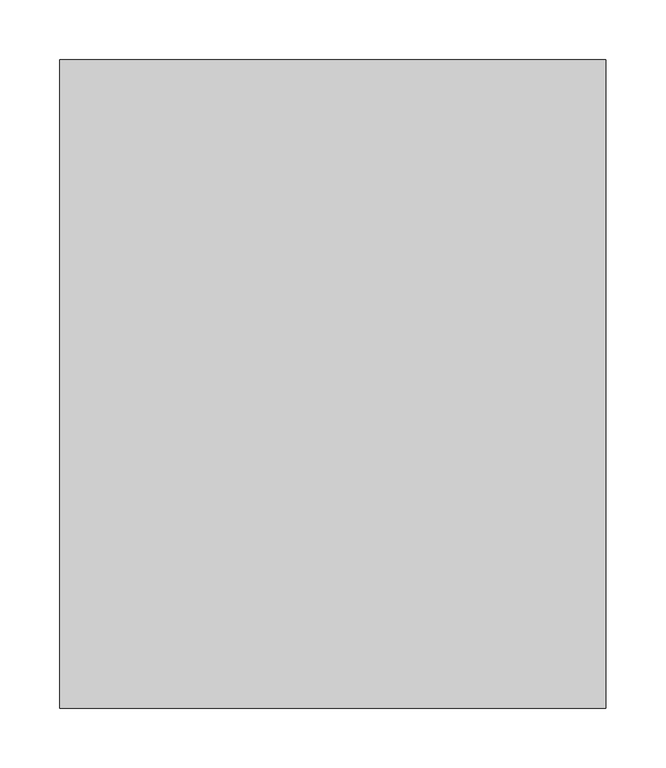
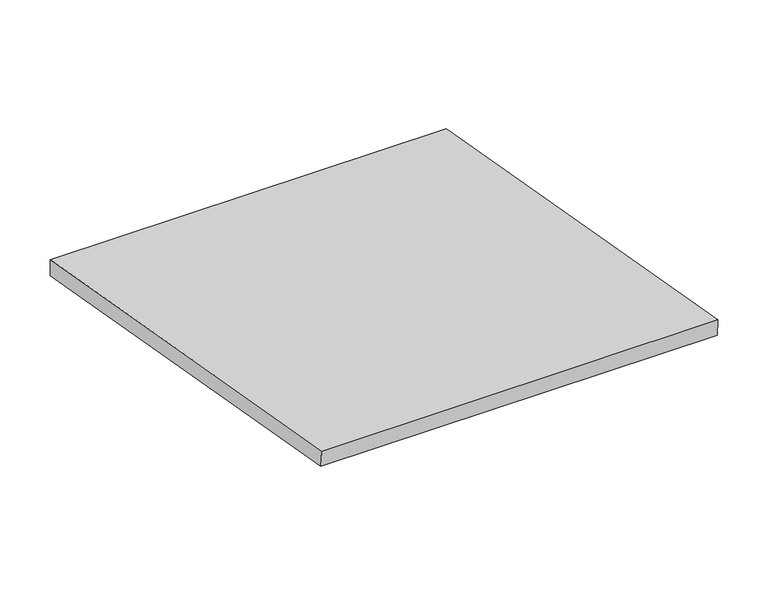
"""IFC4 building model written with IfcOpenShell, lengths in millimetres: proxy geometry, GRADIENT^TABLE 5_PRISM BASE-ACCESS PANEL."""

from ifc_helpers import new_model, si_unit, frame, origin, place, context, project, spatial, polyline, outline, extrude, source, transform, mapped, element, save


def generic_models_f4aebec8(model_context):
    return source(origin(), model_context, "Body", "SweptSolid", [
        extrude(outline(polyline([(-15.875, -451.332326), (-15.875, -470.676203), (-557.0811135, -375.246963), (-558.8, -355.6), (-15.875, -451.332326)])), frame((990.6, 0.0, 0.0), z_axis=(1.0, 0.0, 0.0), x_axis=(0.0, 1.0, 0.0)), (0.0, 0.0, 1.0), 457.2),
    ])


if __name__ == "__main__":
    model = new_model("IFC4")
    model_context = context("Model", 3, world=origin())
    ifc_project = project(units=[si_unit("LENGTHUNIT", "METRE", prefix="MILLI")], contexts=[model_context])
    site = spatial("IfcSite", under=ifc_project)
    building = spatial("IfcBuilding", under=site)
    placement = place(None, origin())
    generic_models_shape = generic_models_f4aebec8(model_context)
    element("IfcBuildingElementProxy", 1, Name="GRADIENT^TABLE 5_PRISM BASE-ACCESS PANEL", ObjectType="GRADIENT^TABLE 5_PRISM BASE-ACCESS PANEL", at=placement, inside=building, context=model_context, shape_type="MappedRepresentation", body=[
        mapped(generic_models_shape, transform((0.0, 0.0, 0.0), x_axis=(1.0, 0.0, 0.0), y_axis=(0.0, 1.0, 0.0), z_axis=(0.0, 0.0, 1.0))),
    ])
    save(model, "model.ifc")
